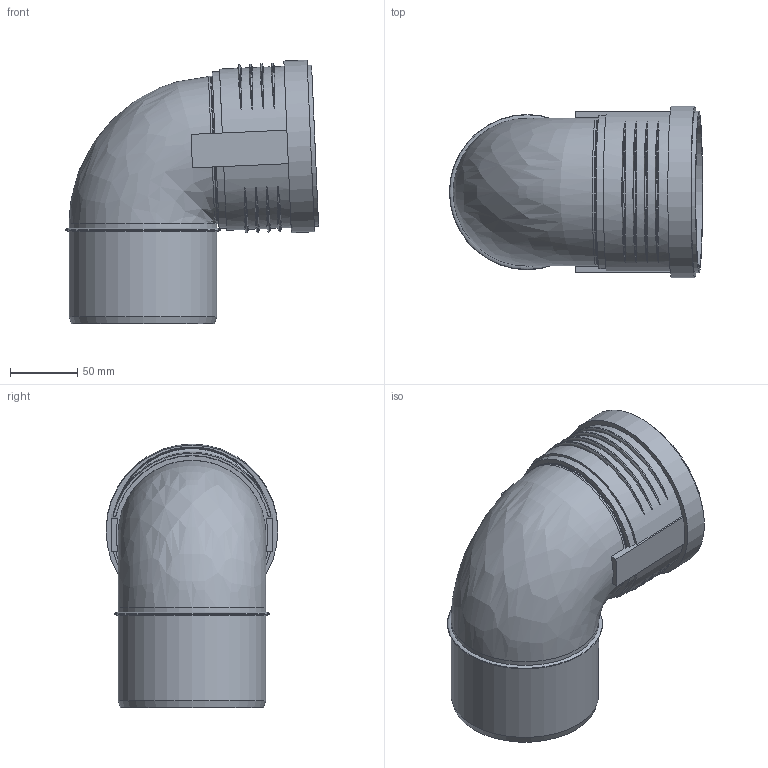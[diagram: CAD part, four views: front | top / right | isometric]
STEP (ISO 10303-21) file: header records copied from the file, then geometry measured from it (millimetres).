
FILE_DESCRIPTION(/* description */ (''),/* implementation_level */ '2;1');
FILE_NAME(/* name */ 'Z:\Geberit\Export\NewStep\390524.stp',/* time_stamp */ '2014-04-02T08:14:13+02:00',/* author */ ('ML'),/* organization */ (''),/* preprocessor_version */ 'ST-DEVELOPER v15.2',/* originating_system */ 'Autodesk Inventor 2014',/* authorisation */ '');
FILE_SCHEMA (('AUTOMOTIVE_DESIGN { 1 0 10303 214 3 1 1 }'));
Length unit declared in the file: millimetre
Products named in the file (3): 861335; 861404; 390524
Bounding box: 188.77 x 128.1 x 196.71 mm (x, y, z)
Volume: 318316.1 mm3; surface area: 182898.5 mm2
Topology: 2 solids, 2 shells, 68 faces, 162 edges, 109 vertices
Faces by surface type: torus 28, plane 19, cylinder 18, cone 2, bspline 1
Full cylindrical faces by diameter (mm): 103 x2, 103.2 x1, 110.2 x4, 113.3 x2, 120.3 x1, 121.1 x1, 128.1 x1
Entity records: 2726 total; most frequent: CARTESIAN_POINT 1150, DIRECTION 290, ORIENTED_EDGE 278, EDGE_CURVE 139, AXIS2_PLACEMENT_3D 127, VERTEX_POINT 106, EDGE_LOOP 103, STYLED_ITEM 70
